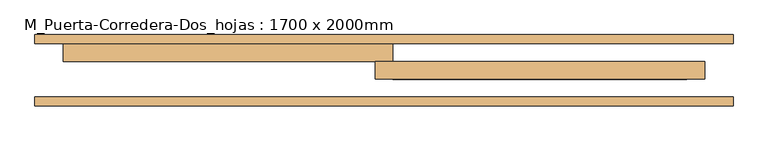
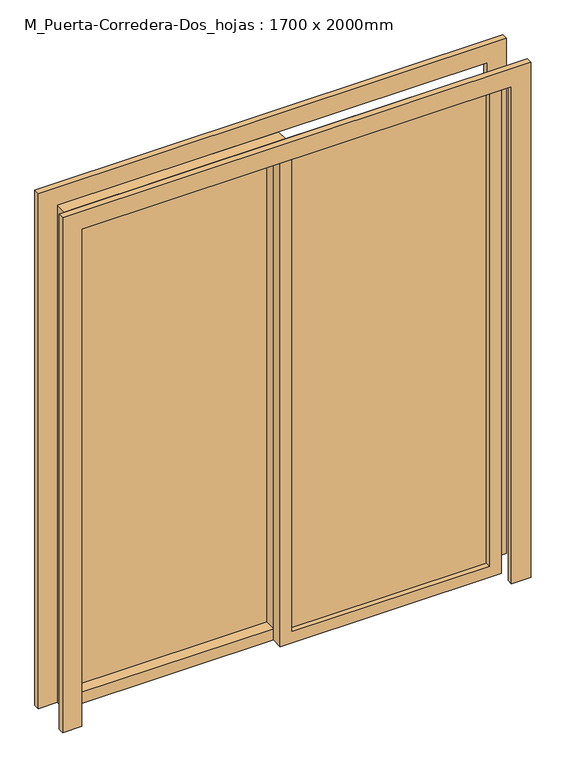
"""IFC4 building model written with IfcOpenShell, lengths in millimetres: door geometry, M_Puerta-Corredera-Dos_hojas : 1700 x 2000mm."""

from ifc_helpers import new_model, si_unit, frame, origin, place, context, project, spatial, polyline, outline, extrude, source, transform, mapped, element, save


def m_puerta_corredera_dos_hojas_1700_x_2000mm_09eee391(model_context):
    return source(origin(), model_context, "Body", "SweptSolid", [
        extrude(outline(polyline([(0.0, -980.0), (0.0, -900.0), (2200.0, -900.0), (2200.0, 900.0), (0.0, 900.0), (0.0, 980.0), (2280.0, 980.0), (2280.0, -980.0), (0.0, -980.0)])), frame((0.0, 27.0, 0.0), z_axis=(0.0, 1.0, 0.0), x_axis=(0.0, 0.0, 1.0)), (0.0, 0.0, 1.0), 25.0),
        extrude(outline(polyline([(0.0, 980.0), (2280.0, 980.0), (2280.0, -980.0), (0.0, -980.0), (0.0, -900.0), (2200.0, -900.0), (2200.0, 900.0), (0.0, 900.0), (0.0, 980.0)])), frame((0.0, 202.0, 0.0), z_axis=(0.0, 1.0, 0.0), x_axis=(0.0, 0.0, 1.0)), (0.0, 0.0, 1.0), 25.0),
        extrude(outline(polyline([(2200.0, -25.0), (0.0, -25.0), (0.0, 900.0), (2200.0, 900.0), (2200.0, -25.0)]), holes=[polyline([(2150.0, 25.0), (2150.0, 850.0), (50.0, 850.0), (50.0, 25.0), (2150.0, 25.0)])]), frame((0.0, 102.0, 0.0), z_axis=(0.0, 1.0, 0.0), x_axis=(0.0, 0.0, 1.0)), (0.0, 0.0, 1.0), 50.0),
        extrude(outline(polyline([(2200.0, 25.0), (2200.0, -900.0), (0.0, -900.0), (0.0, 25.0), (2200.0, 25.0)]), holes=[polyline([(2150.0, -25.0), (50.0, -25.0), (50.0, -850.0), (2150.0, -850.0), (2150.0, -25.0)])]), frame((0.0, 152.0, 0.0), z_axis=(0.0, 1.0, 0.0), x_axis=(0.0, 0.0, 1.0)), (0.0, 0.0, 1.0), 50.0),
        extrude(outline(polyline([(25.0, 130.175), (850.0, 130.175), (850.0, 123.825), (25.0, 123.825), (25.0, 130.175)])), frame((0.0, 0.0, 50.0), z_axis=(0.0, 0.0, 1.0), x_axis=(1.0, 0.0, 0.0)), (0.0, 0.0, 1.0), 2100.0),
        extrude(outline(polyline([(-25.0, 200.025), (-850.0, 200.025), (-850.0, 206.375), (-25.0, 206.375), (-25.0, 200.025)])), frame((0.0, 0.0, 50.0), z_axis=(0.0, 0.0, 1.0), x_axis=(1.0, 0.0, 0.0)), (0.0, 0.0, 1.0), 2100.0),
    ])


if __name__ == "__main__":
    model = new_model("IFC4")
    model_context = context("Model", 3, world=origin())
    ifc_project = project(units=[si_unit("LENGTHUNIT", "METRE", prefix="MILLI")], contexts=[model_context])
    site = spatial("IfcSite", under=ifc_project)
    building = spatial("IfcBuilding", under=site)
    placement = place(None, origin())
    m_puerta_corredera_dos_hojas_1700_x_2000mm_shape = m_puerta_corredera_dos_hojas_1700_x_2000mm_09eee391(model_context)
    element("IfcDoor", 1, ObjectType="M_Puerta-Corredera-Dos_hojas : 1700 x 2000mm", at=placement, inside=building, context=model_context, shape_type="MappedRepresentation", body=[
        mapped(m_puerta_corredera_dos_hojas_1700_x_2000mm_shape, transform((0.0, 0.0, 0.0), x_axis=(1.0, 0.0, 0.0), y_axis=(0.0, 1.0, 0.0), z_axis=(0.0, 0.0, 1.0))),
    ])
    save(model, "model.ifc")
